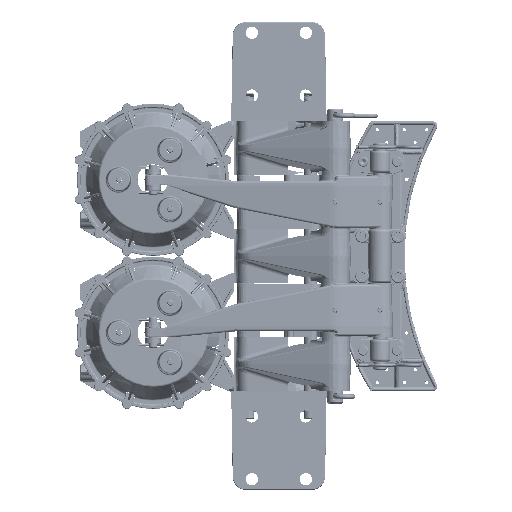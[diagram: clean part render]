
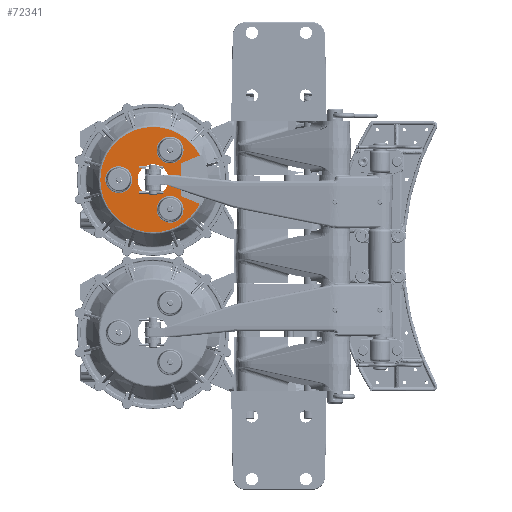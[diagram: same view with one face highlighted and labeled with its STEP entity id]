
A CAD part, top view. The second image highlights one B-rep face of the part: STEP entity #72341.
In plain terms, the highlighted planar face has unit normal (0, 0, 1).
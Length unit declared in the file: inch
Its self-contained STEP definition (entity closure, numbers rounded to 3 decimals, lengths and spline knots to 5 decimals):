
#1441 = CARTESIAN_POINT ( 'NONE',  ( -9.9249, 4.252, 2.775 ) ) ;
#6528 = DIRECTION ( 'NONE',  ( 0., 0., 1. ) ) ;
#7834 = DIRECTION ( 'NONE',  ( 0., 1., 0. ) ) ;
#18564 = DIRECTION ( 'NONE',  ( 0., 1., 0. ) ) ;
#21368 = DIRECTION ( 'NONE',  ( 0., 1., 0. ) ) ;
#22162 = CARTESIAN_POINT ( 'NONE',  ( -9.9249, 3.38927, 2.775 ) ) ;
#26503 = DIRECTION ( 'NONE',  ( 0., 1., 0. ) ) ;
#27601 = EDGE_CURVE ( 'NONE', #424688, #423102, #209454, .T. ) ;
#36723 = VECTOR ( 'NONE', #268891, 39.37008 ) ;
#37444 = DIRECTION ( 'NONE',  ( 0., -1., 0. ) ) ;
#38754 = EDGE_CURVE ( 'NONE', #115292, #115092, #367971, .T. ) ;
#39846 = AXIS2_PLACEMENT_3D ( 'NONE', #300993, #86369, #337025 ) ;
#46805 = VERTEX_POINT ( 'NONE', #371011 ) ;
#47899 = ORIENTED_EDGE ( 'NONE', *, *, #463440, .T. ) ;
#51414 = LINE ( 'NONE', #214243, #135577 ) ;
#54017 = CARTESIAN_POINT ( 'NONE',  ( -7.32433, 2.90598, 2.775 ) ) ;
#55244 = CARTESIAN_POINT ( 'NONE',  ( -11.8299, 4.252, 2.775 ) ) ;
#58217 = CARTESIAN_POINT ( 'NONE',  ( -6.99663, 4.252, 2.775 ) ) ;
#67451 = DIRECTION ( 'NONE',  ( 0., 0., -1. ) ) ;
#68637 = AXIS2_PLACEMENT_3D ( 'NONE', #455798, #241217, #26503 ) ;
#72341 = ADVANCED_FACE ( 'NONE', ( #397588, #302262, #408786, #218252, #313497 ), #197617, .F. ) ;
#75945 = CARTESIAN_POINT ( 'NONE',  ( -9.9249, 5.11473, 2.775 ) ) ;
#86076 = CIRCLE ( 'NONE', #126499, 0.74773 ) ;
#86369 = DIRECTION ( 'NONE',  ( 0., 0., 1. ) ) ;
#91187 = DIRECTION ( 'NONE',  ( 0., 1., 0. ) ) ;
#93359 = CARTESIAN_POINT ( 'NONE',  ( -8.3649, 3.337, 2.775 ) ) ;
#93435 = CARTESIAN_POINT ( 'NONE',  ( -8.3649, 7.04097, 2.775 ) ) ;
#94233 = DIRECTION ( 'NONE',  ( 0., 1., 0. ) ) ;
#112273 = DIRECTION ( 'NONE',  ( 0., 0., -1. ) ) ;
#115092 = VERTEX_POINT ( 'NONE', #347891 ) ;
#115251 = CIRCLE ( 'NONE', #134737, 2.92827 ) ;
#115292 = VERTEX_POINT ( 'NONE', #349579 ) ;
#125401 = VERTEX_POINT ( 'NONE', #224035 ) ;
#125703 = VERTEX_POINT ( 'NONE', #335747 ) ;
#126499 = AXIS2_PLACEMENT_3D ( 'NONE', #447909, #233233, #18564 ) ;
#130755 = EDGE_CURVE ( 'NONE', #137311, #200212, #402353, .T. ) ;
#134144 = CARTESIAN_POINT ( 'NONE',  ( -9.9249, 1.32373, 2.775 ) ) ;
#134737 = AXIS2_PLACEMENT_3D ( 'NONE', #221163, #6528, #257215 ) ;
#135577 = VECTOR ( 'NONE', #250248, 39.37008 ) ;
#137311 = VERTEX_POINT ( 'NONE', #54017 ) ;
#140373 = AXIS2_PLACEMENT_3D ( 'NONE', #437025, #222441, #7834 ) ;
#141767 = AXIS2_PLACEMENT_3D ( 'NONE', #326920, #112273, #362922 ) ;
#143543 = EDGE_LOOP ( 'NONE', ( #315373, #47899, #254761, #328362, #403468, #256206 ) ) ;
#170329 = VERTEX_POINT ( 'NONE', #75945 ) ;
#173469 = ORIENTED_EDGE ( 'NONE', *, *, #354653, .T. ) ;
#182464 = VERTEX_POINT ( 'NONE', #134144 ) ;
#184922 = EDGE_LOOP ( 'NONE', ( #386463, #173469 ) ) ;
#192533 = AXIS2_PLACEMENT_3D ( 'NONE', #58217, #308744, #94233 ) ;
#195166 = ORIENTED_EDGE ( 'NONE', *, *, #435639, .T. ) ;
#197617 = PLANE ( 'NONE',  #192533 ) ;
#200212 = VERTEX_POINT ( 'NONE', #93359 ) ;
#204173 = CARTESIAN_POINT ( 'NONE',  ( -7.32433, 5.59802, 2.775 ) ) ;
#204773 = CIRCLE ( 'NONE', #39846, 2.92827 ) ;
#206819 = CIRCLE ( 'NONE', #310900, 0.74773 ) ;
#208357 = CIRCLE ( 'NONE', #141767, 0.74773 ) ;
#209454 = CIRCLE ( 'NONE', #291270, 0.74773 ) ;
#209726 = DIRECTION ( 'NONE',  ( 0., 0., -1. ) ) ;
#214243 = CARTESIAN_POINT ( 'NONE',  ( -6.42336, 5.97121, 2.775 ) ) ;
#215763 = EDGE_CURVE ( 'NONE', #359574, #363259, #51414, .T. ) ;
#215885 = EDGE_CURVE ( 'NONE', #115092, #115292, #208357, .T. ) ;
#218252 = FACE_BOUND ( 'NONE', #339794, .T. ) ;
#221163 = CARTESIAN_POINT ( 'NONE',  ( -9.9249, 4.252, 2.775 ) ) ;
#221781 = EDGE_CURVE ( 'NONE', #182464, #137311, #446584, .T. ) ;
#222441 = DIRECTION ( 'NONE',  ( 0., 0., -1. ) ) ;
#224035 = CARTESIAN_POINT ( 'NONE',  ( -9.9249, 7.18027, 2.775 ) ) ;
#226033 = AXIS2_PLACEMENT_3D ( 'NONE', #282030, #67451, #318008 ) ;
#227872 = ORIENTED_EDGE ( 'NONE', *, *, #215885, .T. ) ;
#232511 = ORIENTED_EDGE ( 'NONE', *, *, #370577, .T. ) ;
#233233 = DIRECTION ( 'NONE',  ( 0., 0., -1. ) ) ;
#234955 = EDGE_CURVE ( 'NONE', #359574, #200212, #322608, .T. ) ;
#236023 = DIRECTION ( 'NONE',  ( 0., 0., -1. ) ) ;
#241217 = DIRECTION ( 'NONE',  ( 0., 0., -1. ) ) ;
#250248 = DIRECTION ( 'NONE',  ( 0.924, 0.383, 0. ) ) ;
#252056 = DIRECTION ( 'NONE',  ( 0., 0., 1. ) ) ;
#252818 = CIRCLE ( 'NONE', #226033, 0.86273 ) ;
#254761 = ORIENTED_EDGE ( 'NONE', *, *, #255610, .T. ) ;
#255610 = EDGE_CURVE ( 'NONE', #125401, #182464, #115251, .T. ) ;
#256206 = ORIENTED_EDGE ( 'NONE', *, *, #234955, .F. ) ;
#257215 = DIRECTION ( 'NONE',  ( 0., -1., 0. ) ) ;
#268891 = DIRECTION ( 'NONE',  ( 0., -1., 0. ) ) ;
#280967 = EDGE_CURVE ( 'NONE', #46805, #125703, #413476, .T. ) ;
#282030 = CARTESIAN_POINT ( 'NONE',  ( -9.9249, 4.252, 2.775 ) ) ;
#289593 = CARTESIAN_POINT ( 'NONE',  ( -11.8299, 4.99973, 2.775 ) ) ;
#291270 = AXIS2_PLACEMENT_3D ( 'NONE', #450636, #236023, #21368 ) ;
#293376 = ORIENTED_EDGE ( 'NONE', *, *, #280967, .T. ) ;
#300993 = CARTESIAN_POINT ( 'NONE',  ( -9.9249, 4.252, 2.775 ) ) ;
#302262 = FACE_BOUND ( 'NONE', #380473, .T. ) ;
#305778 = DIRECTION ( 'NONE',  ( 0., 0., -1. ) ) ;
#307132 = VECTOR ( 'NONE', #456416, 39.37008 ) ;
#308744 = DIRECTION ( 'NONE',  ( 0., 0., -1. ) ) ;
#310900 = AXIS2_PLACEMENT_3D ( 'NONE', #55244, #305778, #91187 ) ;
#313497 = FACE_OUTER_BOUND ( 'NONE', #143543, .T. ) ;
#315373 = ORIENTED_EDGE ( 'NONE', *, *, #215763, .T. ) ;
#318008 = DIRECTION ( 'NONE',  ( 0., 1., 0. ) ) ;
#320667 = CIRCLE ( 'NONE', #462340, 0.86273 ) ;
#322608 = LINE ( 'NONE', #93435, #36723 ) ;
#322968 = ORIENTED_EDGE ( 'NONE', *, *, #38754, .T. ) ;
#326920 = CARTESIAN_POINT ( 'NONE',  ( -8.9724, 5.90178, 2.775 ) ) ;
#328362 = ORIENTED_EDGE ( 'NONE', *, *, #221781, .T. ) ;
#335747 = CARTESIAN_POINT ( 'NONE',  ( -8.9724, 1.85449, 2.775 ) ) ;
#337025 = DIRECTION ( 'NONE',  ( 0., -1., 0. ) ) ;
#339794 = EDGE_LOOP ( 'NONE', ( #293376, #195166 ) ) ;
#347891 = CARTESIAN_POINT ( 'NONE',  ( -8.9724, 5.15404, 2.775 ) ) ;
#349579 = CARTESIAN_POINT ( 'NONE',  ( -8.9724, 6.64951, 2.775 ) ) ;
#354653 = EDGE_CURVE ( 'NONE', #446711, #170329, #252818, .T. ) ;
#357336 = ORIENTED_EDGE ( 'NONE', *, *, #27601, .T. ) ;
#359574 = VERTEX_POINT ( 'NONE', #385028 ) ;
#362922 = DIRECTION ( 'NONE',  ( 0., 1., 0. ) ) ;
#363259 = VERTEX_POINT ( 'NONE', #204173 ) ;
#367971 = CIRCLE ( 'NONE', #140373, 0.74773 ) ;
#370577 = EDGE_CURVE ( 'NONE', #423102, #424688, #206819, .T. ) ;
#371011 = CARTESIAN_POINT ( 'NONE',  ( -8.9724, 3.34996, 2.775 ) ) ;
#380473 = EDGE_LOOP ( 'NONE', ( #232511, #357336 ) ) ;
#385028 = CARTESIAN_POINT ( 'NONE',  ( -8.3649, 5.167, 2.775 ) ) ;
#386463 = ORIENTED_EDGE ( 'NONE', *, *, #391802, .T. ) ;
#391802 = EDGE_CURVE ( 'NONE', #170329, #446711, #320667, .T. ) ;
#395093 = CARTESIAN_POINT ( 'NONE',  ( -6.42336, 2.53279, 2.775 ) ) ;
#397588 = FACE_BOUND ( 'NONE', #184922, .T. ) ;
#402291 = AXIS2_PLACEMENT_3D ( 'NONE', #1441, #252056, #37444 ) ;
#402353 = LINE ( 'NONE', #395093, #307132 ) ;
#403468 = ORIENTED_EDGE ( 'NONE', *, *, #130755, .T. ) ;
#408786 = FACE_BOUND ( 'NONE', #442180, .T. ) ;
#413476 = CIRCLE ( 'NONE', #68637, 0.74773 ) ;
#423102 = VERTEX_POINT ( 'NONE', #289593 ) ;
#424249 = CARTESIAN_POINT ( 'NONE',  ( -9.9249, 4.252, 2.775 ) ) ;
#424688 = VERTEX_POINT ( 'NONE', #450768 ) ;
#435639 = EDGE_CURVE ( 'NONE', #125703, #46805, #86076, .T. ) ;
#437025 = CARTESIAN_POINT ( 'NONE',  ( -8.9724, 5.90178, 2.775 ) ) ;
#442180 = EDGE_LOOP ( 'NONE', ( #322968, #227872 ) ) ;
#446584 = CIRCLE ( 'NONE', #402291, 2.92827 ) ;
#446711 = VERTEX_POINT ( 'NONE', #22162 ) ;
#447909 = CARTESIAN_POINT ( 'NONE',  ( -8.9724, 2.60222, 2.775 ) ) ;
#450636 = CARTESIAN_POINT ( 'NONE',  ( -11.8299, 4.252, 2.775 ) ) ;
#450768 = CARTESIAN_POINT ( 'NONE',  ( -11.8299, 3.50427, 2.775 ) ) ;
#455798 = CARTESIAN_POINT ( 'NONE',  ( -8.9724, 2.60222, 2.775 ) ) ;
#456416 = DIRECTION ( 'NONE',  ( -0.924, 0.383, 0. ) ) ;
#460356 = DIRECTION ( 'NONE',  ( 0., 1., 0. ) ) ;
#462340 = AXIS2_PLACEMENT_3D ( 'NONE', #424249, #209726, #460356 ) ;
#463440 = EDGE_CURVE ( 'NONE', #363259, #125401, #204773, .T. ) ;
